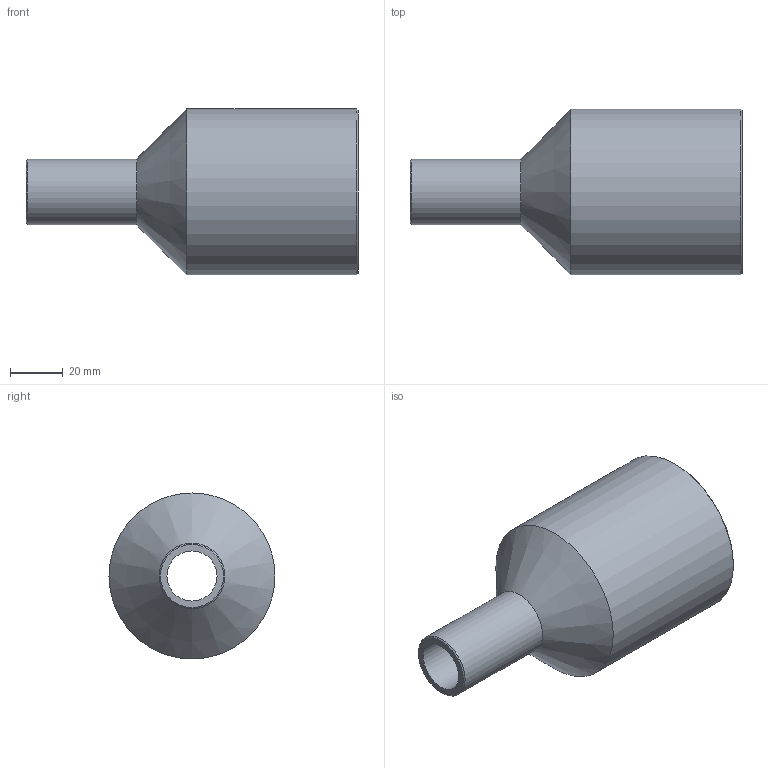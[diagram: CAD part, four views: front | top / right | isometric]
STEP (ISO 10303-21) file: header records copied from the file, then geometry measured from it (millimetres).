
FILE_DESCRIPTION(/* description */ ('Unknown'),/* implementation_level */ '2;1');
FILE_NAME(/* name */ 'RP063025C',/* time_stamp */ '2021-09-17T14:58:39+02:00',/* author */ ('Unknown'),/* organization */ ('Unknown'),/* preprocessor_version */ 'ST-DEVELOPER v16.7',/* originating_system */ 'Solid Edge',/* authorisation */ 'Unknown');
FILE_SCHEMA (('AUTOMOTIVE_DESIGN {1 0 10303 214 3 1 1}'));
Length unit declared in the file: millimetre
Products named in the file (1): RP063025C
Bounding box: 126 x 63 x 63 mm (x, y, z)
Volume: 95026.9 mm3; surface area: 36310.3 mm2
Topology: 1 solids, 1 shells, 10 faces, 19 edges, 11 vertices
Faces by surface type: cylinder 4, cone 4, plane 2
Full cylindrical faces by diameter (mm): 19 x1, 25 x1, 51.4 x1, 63 x1
Entity records: 238 total; most frequent: DIRECTION 42, CARTESIAN_POINT 31, AXIS2_PLACEMENT_3D 21, ORIENTED_EDGE 20, EDGE_LOOP 20, FACE_BOUND 20, EDGE_CURVE 10, VERTEX_POINT 10
